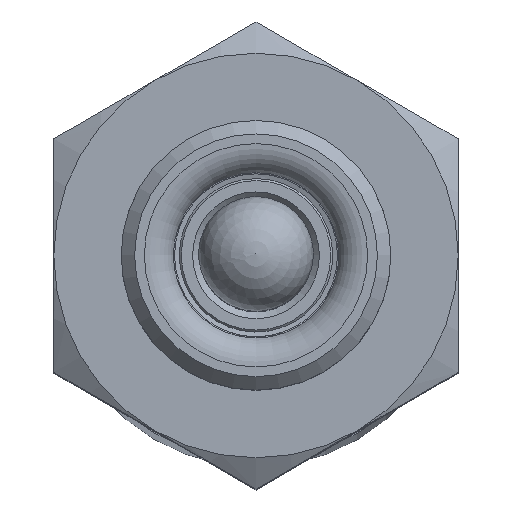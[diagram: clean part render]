
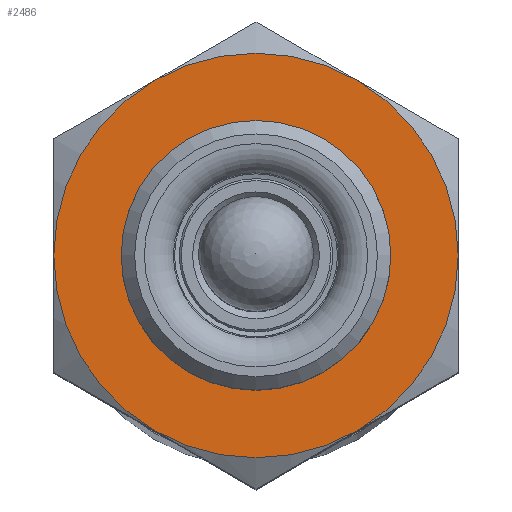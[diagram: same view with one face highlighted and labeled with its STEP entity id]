
A CAD part, top view. The second image highlights one B-rep face of the part: STEP entity #2486.
In plain terms, the highlighted planar face has unit normal (0, 0, 1) as drawn and (1, 0, 0) by its records, which use the part's own axes.
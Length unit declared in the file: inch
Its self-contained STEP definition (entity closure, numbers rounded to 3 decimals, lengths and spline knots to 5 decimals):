
#184=FACE_BOUND('',#598,.T.);
#245=PLANE('',#2879);
#394=FACE_OUTER_BOUND('',#597,.T.);
#597=EDGE_LOOP('',(#2087,#2088,#2089,#2090,#2091,#2092));
#598=EDGE_LOOP('',(#2093));
#1009=CIRCLE('',#2878,0.25006);
#1010=CIRCLE('',#2880,0.375);
#1011=CIRCLE('',#2881,0.375);
#1012=CIRCLE('',#2882,0.375);
#1013=CIRCLE('',#2883,0.375);
#1014=CIRCLE('',#2884,0.375);
#1015=CIRCLE('',#2885,0.375);
#1202=VERTEX_POINT('',#4677);
#1203=VERTEX_POINT('',#4681);
#1204=VERTEX_POINT('',#4682);
#1205=VERTEX_POINT('',#4684);
#1206=VERTEX_POINT('',#4686);
#1207=VERTEX_POINT('',#4688);
#1208=VERTEX_POINT('',#4690);
#1498=EDGE_CURVE('',#1202,#1202,#1009,.T.);
#1500=EDGE_CURVE('',#1203,#1204,#1010,.T.);
#1501=EDGE_CURVE('',#1204,#1205,#1011,.T.);
#1502=EDGE_CURVE('',#1205,#1206,#1012,.T.);
#1503=EDGE_CURVE('',#1206,#1207,#1013,.T.);
#1504=EDGE_CURVE('',#1207,#1208,#1014,.T.);
#1505=EDGE_CURVE('',#1208,#1203,#1015,.T.);
#2087=ORIENTED_EDGE('',*,*,#1500,.T.);
#2088=ORIENTED_EDGE('',*,*,#1501,.T.);
#2089=ORIENTED_EDGE('',*,*,#1502,.T.);
#2090=ORIENTED_EDGE('',*,*,#1503,.T.);
#2091=ORIENTED_EDGE('',*,*,#1504,.T.);
#2092=ORIENTED_EDGE('',*,*,#1505,.T.);
#2093=ORIENTED_EDGE('',*,*,#1498,.F.);
#2486=ADVANCED_FACE('',(#394,#184),#245,.T.);
#2878=AXIS2_PLACEMENT_3D('',#4678,#3622,#3623);
#2879=AXIS2_PLACEMENT_3D('',#4680,#3625,#3626);
#2880=AXIS2_PLACEMENT_3D('',#4683,#3627,#3628);
#2881=AXIS2_PLACEMENT_3D('',#4685,#3629,#3630);
#2882=AXIS2_PLACEMENT_3D('',#4687,#3631,#3632);
#2883=AXIS2_PLACEMENT_3D('',#4689,#3633,#3634);
#2884=AXIS2_PLACEMENT_3D('',#4691,#3635,#3636);
#2885=AXIS2_PLACEMENT_3D('',#4692,#3637,#3638);
#3622=DIRECTION('center_axis',(1.,0.,0.));
#3623=DIRECTION('ref_axis',(0.,0.,1.));
#3625=DIRECTION('center_axis',(1.,0.,0.));
#3626=DIRECTION('ref_axis',(0.,0.,-1.));
#3627=DIRECTION('center_axis',(1.,0.,0.));
#3628=DIRECTION('ref_axis',(0.,1.,0.));
#3629=DIRECTION('center_axis',(1.,0.,0.));
#3630=DIRECTION('ref_axis',(0.,1.,0.));
#3631=DIRECTION('center_axis',(1.,0.,0.));
#3632=DIRECTION('ref_axis',(0.,1.,0.));
#3633=DIRECTION('center_axis',(1.,0.,0.));
#3634=DIRECTION('ref_axis',(0.,1.,0.));
#3635=DIRECTION('center_axis',(1.,0.,0.));
#3636=DIRECTION('ref_axis',(0.,1.,0.));
#3637=DIRECTION('center_axis',(1.,0.,0.));
#3638=DIRECTION('ref_axis',(0.,1.,0.));
#4677=CARTESIAN_POINT('',(0.448,0.,-0.25006));
#4678=CARTESIAN_POINT('Origin',(0.448,0.,0.));
#4680=CARTESIAN_POINT('Origin',(0.448,0.,0.));
#4681=CARTESIAN_POINT('',(0.448,-0.32476,-0.1875));
#4682=CARTESIAN_POINT('',(0.448,0.,-0.375));
#4683=CARTESIAN_POINT('Origin',(0.448,0.,0.));
#4684=CARTESIAN_POINT('',(0.448,0.32476,-0.1875));
#4685=CARTESIAN_POINT('Origin',(0.448,0.,0.));
#4686=CARTESIAN_POINT('',(0.448,0.32476,0.1875));
#4687=CARTESIAN_POINT('Origin',(0.448,0.,0.));
#4688=CARTESIAN_POINT('',(0.448,0.,0.375));
#4689=CARTESIAN_POINT('Origin',(0.448,0.,0.));
#4690=CARTESIAN_POINT('',(0.448,-0.32476,0.1875));
#4691=CARTESIAN_POINT('Origin',(0.448,0.,0.));
#4692=CARTESIAN_POINT('Origin',(0.448,0.,0.));
